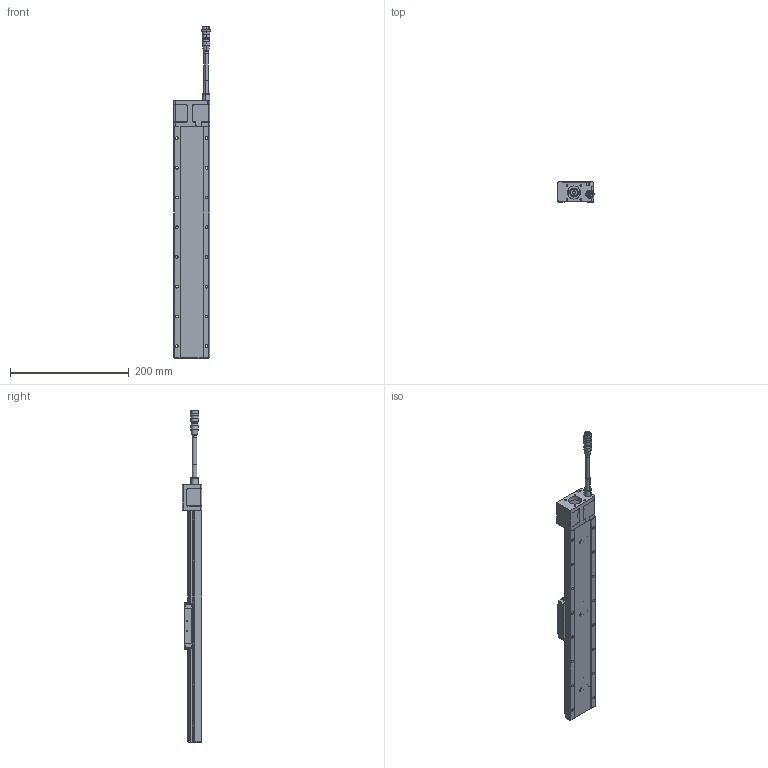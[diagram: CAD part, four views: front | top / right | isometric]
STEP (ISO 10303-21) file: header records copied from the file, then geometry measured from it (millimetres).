
FILE_DESCRIPTION (( 'STEP AP203' ), '1' );
FILE_NAME ('CXN60300-S2?N(µL°¨¹F).S', '2024-01-05T03:35:19', ( '' ), ( '' ), 'SwSTEP 2.0', 'SolidWorks 2019', '' );
FILE_SCHEMA (( 'CONFIG_CONTROL_DESIGN' ));
Products named in the file (4): Group4^CXN60300-S2?N(28框無馬達)_defeature_GMT; Group5^CXN60300-S2?N(28框無馬達)_defeature_GMT; HR10A-10J-12P_帶線示意; CXN60300-S2?N(無馬達)
Assembly tree (3 placements, depth 2):
  CXN60300-S2?N(無馬達)
    Group4^CXN60300-S2?N(28框無馬達)_defeature_GMT
    Group5^CXN60300-S2?N(28框無馬達)_defeature_GMT
    HR10A-10J-12P_帶線示意
Bounding box: 61 x 33.5 x 558.5 mm (x, y, z)
Volume: 43387.2 mm3; surface area: 152275.1 mm2
Topology: 20 solids, 22 shells, 3664 faces, 9335 edges, 5712 vertices
Faces by surface type: plane 1328, cylinder 1093, cone 481, bspline 308, torus 272, sphere 182
Entity records: 124166 total; most frequent: CARTESIAN_POINT 36023, DIRECTION 18769, ORIENTED_EDGE 18322, EDGE_CURVE 9161, AXIS2_PLACEMENT_3D 7098, VERTEX_POINT 5672, LINE 4573, VECTOR 4573
